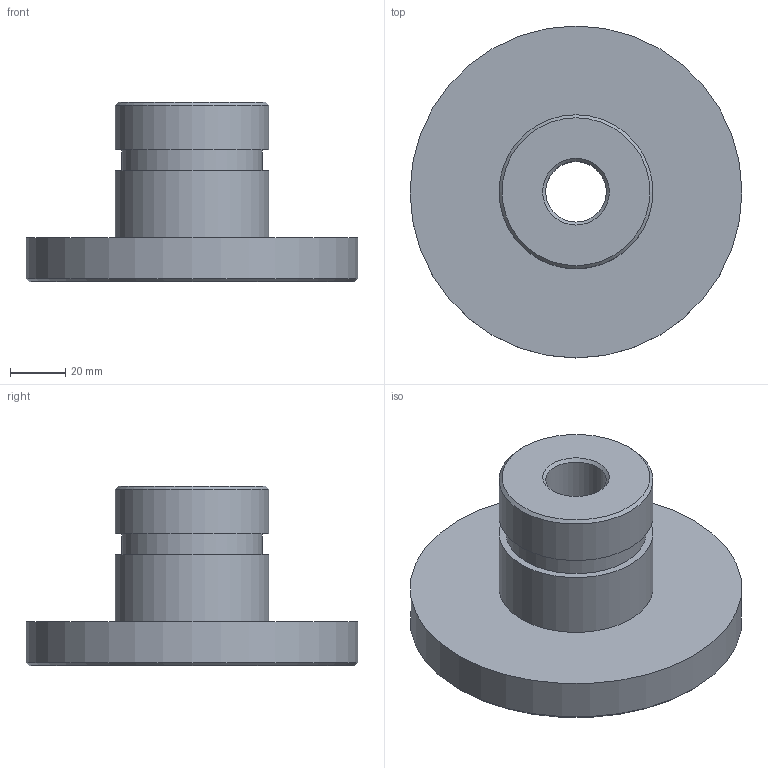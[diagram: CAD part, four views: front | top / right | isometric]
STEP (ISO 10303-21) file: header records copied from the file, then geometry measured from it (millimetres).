
FILE_DESCRIPTION(('Mechanical CAD reference from nasji.com'),'2;1');
FILE_NAME('NASJI.step','',(''),(''),'','NASJI distribution','');
FILE_SCHEMA(('AUTOMOTIVE_DESIGN { 1 0 10303 214 1 1 1 1 }'));
Length unit declared in the file: millimetre
Products named in the file (1): Open CASCADE STEP translator 7.8 50
Bounding box: 119.9 x 119.9 x 64.8 mm (x, y, z)
Volume: 269450.7 mm3; surface area: 41074.3 mm2
Topology: 1 solids, 1 shells, 14 faces, 23 edges, 14 vertices
Faces by surface type: plane 5, cylinder 5, cone 4
Full cylindrical faces by diameter (mm): 21.9 x1, 50.6 x1, 55.62 x2, 119.9 x1
Entity records: 634 total; most frequent: CARTESIAN_POINT 106, DIRECTION 105, ORIENTED_EDGE 46, PCURVE 46, DEFINITIONAL_REPRESENTATION 46, LINE 37, VECTOR 37, AXIS2_PLACEMENT_3D 29
